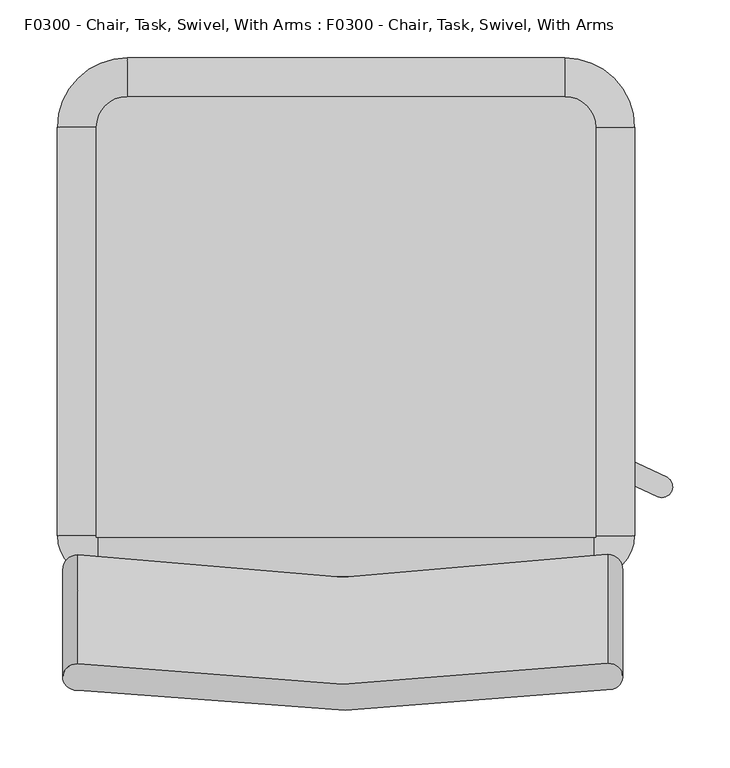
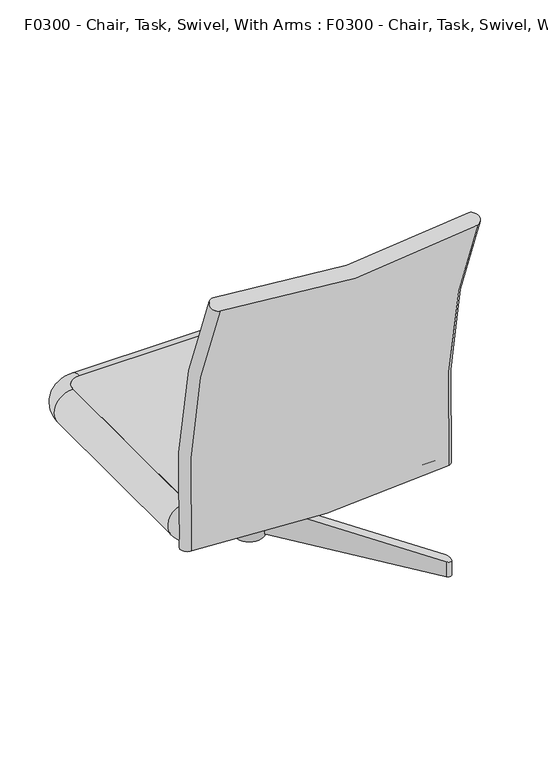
"""IFC4 building model written with IfcOpenShell, lengths in millimetres: proxy geometry, F0300 - Chair, Task, Swivel, With Arms : F0300 - Chair, Task, Swivel, With Arms."""

import ifcopenshell
import ifcopenshell.guid

model = None  # the IFC model being written
_history = None  # IfcOwnerHistory: only IFC2X3 demands one
_inside = {}  # id of a spatial element -> (the spatial element, [elements in it])
_under = {}  # id of a project, library or spatial element -> (it, [spatial elements below it])
_declared = {}  # id of a project -> (the project, [libraries it declares])
_typed = {}  # id of a type object -> (the type object, [elements of that type])
_made_of = {}  # id of a material, layer set ... -> (it, [elements and type objects made of it])


def new_model(schema):
    """Start an empty IFC model of exactly this schema.

    Asked for "IFC4X3", IfcOpenShell would pick the latest addendum, in which some entities
    have other attributes; the version numbers below select the first issue.
    IFC2X3 requires an IfcOwnerHistory on every rooted entity: one is made here for all.
    """
    global model, _history
    if schema == "IFC4X3":
        model = ifcopenshell.file(schema_version=(4, 3, 0, 0))
    else:
        model = ifcopenshell.file(schema=schema)
    _inside.clear()
    _under.clear()
    _declared.clear()
    _typed.clear()
    _made_of.clear()
    _history = None
    if model.schema == "IFC2X3":
        org = make("IfcOrganization", Name="unknown")
        user = make(
            "IfcPersonAndOrganization",
            ThePerson=make("IfcPerson", FamilyName="unknown"),
            TheOrganization=org,
        )
        app = make(
            "IfcApplication",
            ApplicationDeveloper=org,
            Version="unknown",
            ApplicationFullName="unknown",
            ApplicationIdentifier="unknown",
        )
        _history = make(
            "IfcOwnerHistory",
            OwningUser=user,
            OwningApplication=app,
            ChangeAction="ADDED",
            CreationDate=0,
        )
    return model


def make(cls, **values):
    """One entity of the class cls with the attributes given. An attribute that is None is left unset."""
    return model.create_entity(
        cls, **{name: value for name, value in values.items() if value is not None}
    )


def rooted(cls, **values):
    """An entity with a GlobalId (a new one), such as an element, a storey or a relation."""
    return make(cls, GlobalId=ifcopenshell.guid.new(), OwnerHistory=_history, **values)


def si_unit(unit_type, name, prefix=None):
    """IfcSIUnit, for example si_unit("LENGTHUNIT", "METRE", prefix="MILLI")."""
    return make("IfcSIUnit", UnitType=unit_type, Prefix=prefix, Name=name)


def assignment(units):
    """IfcUnitAssignment: the units of a project."""
    return None if units is None else make("IfcUnitAssignment", Units=units)


def point(xyz):
    """IfcCartesianPoint."""
    return None if xyz is None else make("IfcCartesianPoint", Coordinates=xyz)


def direction(xyz):
    """IfcDirection."""
    return None if xyz is None else make("IfcDirection", DirectionRatios=xyz)


def frame(location, z_axis=None, x_axis=None):
    """IfcAxis2Placement3D, a coordinate frame: its origin and axes. An axis left out is left unset."""
    return make(
        "IfcAxis2Placement3D",
        Location=point(location),
        Axis=direction(z_axis),
        RefDirection=direction(x_axis),
    )


def frame_2d(location, x_axis=None):
    """IfcAxis2Placement2D, a coordinate frame in the plane: its origin and x axis."""
    return make(
        "IfcAxis2Placement2D", Location=point(location), RefDirection=direction(x_axis)
    )


def origin():
    """The frame at (0, 0, 0) with its axes left unset."""
    return frame((0.0, 0.0, 0.0))


def origin_2d():
    """The frame at (0, 0) in the plane with its x axis left unset."""
    return frame_2d((0.0, 0.0))


def place(relative_to, where):
    """IfcLocalPlacement: puts the frame where relative to a parent placement (None: the world)."""
    return make(
        "IfcLocalPlacement", PlacementRelTo=relative_to, RelativePlacement=where
    )


def context(
    kind, dimensions, precision=None, world=None, true_north=None, identifier=None
):
    """IfcGeometricRepresentationContext, for example the 3D "Model" context."""
    return make(
        "IfcGeometricRepresentationContext",
        ContextIdentifier=identifier,
        ContextType=kind,
        CoordinateSpaceDimension=dimensions,
        Precision=precision,
        WorldCoordinateSystem=world,
        TrueNorth=true_north,
    )


def project(units=None, contexts=None):
    """IfcProject with its units and contexts."""
    return rooted(
        "IfcProject",
        Name="project",
        RepresentationContexts=contexts,
        UnitsInContext=assignment(units),
    )


def spatial(cls, under=None, at=None, **own):
    """A site, building, storey or space (cls), placed at a placement, below another one or the project."""
    s = rooted(cls, ObjectPlacement=at, **own)
    if under is not None:
        _under.setdefault(under.id(), (under, []))[1].append(s)
    return s


def polyline(points):
    """IfcPolyline through the points."""
    return make("IfcPolyline", Points=[point(p) for p in points])


def circle_curve(where, radius):
    """IfcCircle in the frame where."""
    return make("IfcCircle", Position=where, Radius=radius)


def ellipse_curve(where, semi_axis1, semi_axis2):
    """IfcEllipse in the frame where."""
    return make(
        "IfcEllipse", Position=where, SemiAxis1=semi_axis1, SemiAxis2=semi_axis2
    )


def trimmed(basis, trim1, trim2, sense, master):
    """IfcTrimmedCurve: the piece of a basis curve between two trims."""
    return make(
        "IfcTrimmedCurve",
        BasisCurve=basis,
        Trim1=trim1,
        Trim2=trim2,
        SenseAgreement=sense,
        MasterRepresentation=master,
    )


def segment(curve, same_sense, transition):
    """IfcCompositeCurveSegment."""
    return make(
        "IfcCompositeCurveSegment",
        Transition=transition,
        SameSense=same_sense,
        ParentCurve=curve,
    )


def composite_curve(segments, self_intersect=None):
    """IfcCompositeCurve: segments joined end to end."""
    return make("IfcCompositeCurve", Segments=segments, SelfIntersect=self_intersect)


def outline(outer, holes=None, kind="AREA"):
    """IfcArbitraryClosedProfileDef: a profile drawn as a closed curve; with holes, ...WithVoids."""
    if holes is None:
        return make("IfcArbitraryClosedProfileDef", ProfileType=kind, OuterCurve=outer)
    return make(
        "IfcArbitraryProfileDefWithVoids",
        ProfileType=kind,
        OuterCurve=outer,
        InnerCurves=holes,
    )


def extrude(swept, where, along, depth):
    """IfcExtrudedAreaSolid: the profile swept, set in the frame where, extruded along a direction by depth."""
    return make(
        "IfcExtrudedAreaSolid",
        SweptArea=swept,
        Position=where,
        ExtrudedDirection=direction(along),
        Depth=depth,
    )


def shape(context_of_items, identifier, shape_type, items):
    """IfcShapeRepresentation: the items that make up one representation, for example the "Body"."""
    return make(
        "IfcShapeRepresentation",
        ContextOfItems=context_of_items,
        RepresentationIdentifier=identifier,
        RepresentationType=shape_type,
        Items=items,
    )


def source(mapping_origin, context_of_items, identifier, shape_type, items):
    """IfcRepresentationMap: a shape defined once, which mapped items show again and again."""
    return make(
        "IfcRepresentationMap",
        MappingOrigin=mapping_origin,
        MappedRepresentation=shape(context_of_items, identifier, shape_type, items),
    )


def transform(
    local_origin,
    x_axis=None,
    y_axis=None,
    z_axis=None,
    scale=None,
    scale2=None,
    scale3=None,
    uniform=True,
):
    """IfcCartesianTransformationOperator3D, or its non-uniform kind. x_axis, y_axis, z_axis: its Axis1, 2, 3."""
    if uniform:
        return make(
            "IfcCartesianTransformationOperator3D",
            Axis1=direction(x_axis),
            Axis2=direction(y_axis),
            LocalOrigin=point(local_origin),
            Scale=scale,
            Axis3=direction(z_axis),
        )
    return make(
        "IfcCartesianTransformationOperator3DnonUniform",
        Axis1=direction(x_axis),
        Axis2=direction(y_axis),
        LocalOrigin=point(local_origin),
        Scale=scale,
        Axis3=direction(z_axis),
        Scale2=scale2,
        Scale3=scale3,
    )


def mapped(mapping_source, mapping_target):
    """IfcMappedItem: shows the shape of a source again, moved by a transform."""
    return make(
        "IfcMappedItem", MappingSource=mapping_source, MappingTarget=mapping_target
    )


def made_of(thing, what):
    """Note that an element or type object is made of a material, layer set ...; save() writes the relation."""
    if what is not None:
        _made_of.setdefault(what.id(), (what, []))[1].append(thing)
    return thing


def element(
    cls,
    number,
    at=None,
    inside=None,
    cuts=None,
    type_object=None,
    material=None,
    context=None,
    identifier="Body",
    shape_type=None,
    held_by="IfcProductDefinitionShape",
    body=None,
    shapes=None,
    **own,
):
    """One element of the class cls, such as IfcWall. Its Tag is "e" and its number.

    at: its placement. inside: the storey or other place that contains it. cuts: it is an
    opening in that element (IfcRelVoidsElement). A single representation is given by context,
    identifier, shape_type and body (its items); several are given by shapes. held_by: the class
    of the entity that holds the representations. save() writes the other relations.
    """
    e = rooted(cls, Tag="e%d" % number, ObjectPlacement=at, **own)
    if body is not None:
        shapes = [shape(context, identifier, shape_type, body)]
    if shapes is not None:
        e.Representation = make(held_by, Representations=shapes)
    if inside is not None:
        _inside.setdefault(inside.id(), (inside, []))[1].append(e)
    if cuts is not None:
        rooted(
            "IfcRelVoidsElement", RelatingBuildingElement=cuts, RelatedOpeningElement=e
        )
    if type_object is not None:
        _typed.setdefault(type_object.id(), (type_object, []))[1].append(e)
    return made_of(e, material)


def aggregate(whole, parts):
    """IfcRelAggregates: a whole, such as a stair, and the parts it consists of."""
    return rooted("IfcRelAggregates", RelatingObject=whole, RelatedObjects=parts)


def save(model, path):
    """Write the relations noted so far, then the file.

    IfcRelAggregates (storeys below a building ...), IfcRelContainedInSpatialStructure (elements
    in a storey), IfcRelDefinesByType, IfcRelAssociatesMaterial and IfcRelDeclares: one each for
    every whole, place, type object, material and project.
    """
    for whole, parts in _under.values():
        aggregate(whole, parts)
    for where, things in _inside.values():
        rooted(
            "IfcRelContainedInSpatialStructure",
            RelatedElements=things,
            RelatingStructure=where,
        )
    for kind, things in _typed.values():
        rooted("IfcRelDefinesByType", RelatedObjects=things, RelatingType=kind)
    for what, things in _made_of.values():
        rooted("IfcRelAssociatesMaterial", RelatedObjects=things, RelatingMaterial=what)
    for by, libraries in _declared.values():
        rooted("IfcRelDeclares", RelatingContext=by, RelatedDefinitions=libraries)
    model.write(path)


def plane_surface(at):
    """IfcPlane: the flat surface through the origin of the frame at, square to its z axis."""
    return make("IfcPlane", Position=at)


def cylinder_surface(at, radius):
    """IfcCylindricalSurface: all points at the distance radius from the z axis of the frame at."""
    return make("IfcCylindricalSurface", Position=at, Radius=radius)


def revolved_surface(curve, axis_point, axis_direction):
    """IfcSurfaceOfRevolution: the curve turned about the line through axis_point along axis_direction."""
    return make(
        "IfcSurfaceOfRevolution",
        SweptCurve=make("IfcArbitraryOpenProfileDef", ProfileType="CURVE", Curve=curve),
        AxisPosition=make("IfcAxis1Placement", Location=point(axis_point), Axis=direction(axis_direction)),
    )


def advanced_brep(points, edges, surfaces, faces):
    """IfcAdvancedBrep: a solid bounded by faces that lie on surfaces and meet in shared edges.

    An edge is (start, end): straight between two places in points (the first is 0);
    or (start, end, curve); or (start, end, curve, False) where it runs against its curve.
    A face is (place in surfaces, loops), or (place, loops, False) where it looks against
    its surface's normal. A loop lists edges by number (the first is 1), with a minus sign
    where the edge is run from its end to its start. The first loop is the outer one.
    """
    corners = [point(p) for p in points]
    vertices = [make("IfcVertexPoint", VertexGeometry=c) for c in corners]
    made = []
    for start, end, *more in edges:
        made.append(
            make(
                "IfcEdgeCurve",
                EdgeStart=vertices[start],
                EdgeEnd=vertices[end],
                EdgeGeometry=more[0] if more else make("IfcPolyline", Points=[corners[start], corners[end]]),
                SameSense=more[1] if len(more) > 1 else True,
            )
        )
    hull = []
    for where, loops, *sense in faces:
        bounds = []
        for j, loop in enumerate(loops):
            ring = [make("IfcOrientedEdge", EdgeElement=made[abs(k) - 1], Orientation=k > 0) for k in loop]
            bounds.append(
                make(
                    "IfcFaceOuterBound" if j == 0 else "IfcFaceBound",
                    Bound=make("IfcEdgeLoop", EdgeList=ring),
                    Orientation=True,
                )
            )
        hull.append(make("IfcAdvancedFace", Bounds=bounds, FaceSurface=surfaces[where], SameSense=sense[0] if sense else True))
    return make("IfcAdvancedBrep", Outer=make("IfcClosedShell", CfsFaces=hull))


def f0300_chair_task_swivel_with_arms_f0300_chair_task_swivel_548d2802(model_context):
    return source(origin(), model_context, "Body", "SolidModel", [
        advanced_brep(
        [(20.5891067, 0.9088165, 158.3164474), (12.606954, -16.2089653, 158.3164474), (12.606954, -16.2089653, 212.7487443), (20.5891067, 0.9088165, 212.7487443), (283.7284885, -121.7950923, 86.0096871), (283.7284885, -121.7950923, 57.6571213), (275.3053581, -138.7072429, 86.2220806), (287.501904, -133.9556376, 82.2734822), (275.3053581, -138.7072429, 57.8258095), (287.501904, -133.9556376, 54.689734)],
        [
            (0, 1),
            (1, 2),
            (2, 3),
            (3, 0),
            (3, 4),
            (4, 5),
            (5, 0),
            (2, 6),
            (6, 7, ellipse_curve(frame((278.918781, -129.9532617, 86.4074773), z_axis=(0.3625792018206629, -0.16907345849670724, 0.9164881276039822), x_axis=(0.8306203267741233, -0.3873246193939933, -0.40006188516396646)), 10.333389, 9.4704283)),
            (7, 4, ellipse_curve(frame((278.918781, -129.9532617, 86.4074773), z_axis=(0.3625792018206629, -0.16907345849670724, 0.9164881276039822), x_axis=(0.8306203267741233, -0.3873246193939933, -0.40006188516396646)), 10.333389, 9.4704283)),
            (1, 8),
            (8, 6),
            (5, 9, ellipse_curve(frame((278.918781, -129.9532617, 57.9730562), z_axis=(-0.2968743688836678, 0.13843479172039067, -0.9448287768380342), x_axis=(0.8563056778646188, -0.3993018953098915, -0.3275646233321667)), 10.0234334, 9.4704283)),
            (9, 8, ellipse_curve(frame((278.918781, -129.9532617, 57.9730562), z_axis=(-0.2968743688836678, 0.13843479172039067, -0.9448287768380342), x_axis=(0.8563056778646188, -0.3993018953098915, -0.3275646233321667)), 10.0234334, 9.4704283)),
            (9, 7),
        ],
        [
            plane_surface(frame((16.5980304, -7.6500744, 185.5325958), z_axis=(-0.9063077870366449, 0.42261826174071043, 0.0), x_axis=(-0.42261826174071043, -0.9063077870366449, 0.0))),
            plane_surface(frame((20.5891067, 0.9088165, 185.5325958), z_axis=(0.4226182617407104, 0.9063077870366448, 0.0), x_axis=(0.0, 0.0, 1.0))),
            plane_surface(frame((16.5980304, -7.6500744, 212.7487443), z_axis=(0.36257920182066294, -0.16907345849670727, 0.9164881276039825), x_axis=(-0.42261826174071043, -0.9063077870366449, 0.0))),
            plane_surface(frame((12.606954, -16.2089653, 185.5325958), z_axis=(-0.4226182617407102, -0.906307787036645, 0.0), x_axis=(0.0, 0.0, -1.0))),
            plane_surface(frame((16.5980304, -7.6500744, 158.3164474), z_axis=(-0.29687436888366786, 0.1384347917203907, -0.9448287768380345), x_axis=(0.42261826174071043, 0.9063077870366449, 0.0))),
            cylinder_surface(frame((278.918781, -129.9532617, 0.0), z_axis=(0.0, 0.0, -1.0000000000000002), x_axis=(-0.9063077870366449, 0.42261826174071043, 0.0)), 9.4704283),
        ],
        [
            (0, [[1, 2, 3, 4]]),
            (1, [[-4, 5, 6, 7]]),
            (2, [[-3, 8, 9, 10, -5]]),
            (3, [[-2, 11, 12, -8]]),
            (4, [[-1, -7, 13, 14, -11]]),
            (5, [[15, -9, -12, -14]]),
            (5, [[-15, -13, -6, -10]]),
        ],
    ),
        extrude(outline(composite_curve([segment(trimmed(circle_curve(frame_2d((-0.4565328, 0.2009494)), 25.4), [point((24.9434672, 0.2009494))], [point((-25.8565328, 0.2009494))], False, "CARTESIAN"), True, "CONTINUOUS"), segment(trimmed(circle_curve(frame_2d((-0.4565328, 0.2009494)), 25.4), [point((-25.8565328, 0.2009494))], [point((24.9434672, 0.2009494))], False, "CARTESIAN"), True, "CONTINUOUS")], self_intersect=False)), frame((0.0, 0.0, 154.0271692), z_axis=(0.0, 0.0, 1.0), x_axis=(1.0, 0.0, 0.0)), (0.0, 0.0, 1.0), 58.7215752),
        advanced_brep(
        [(-229.5082147, -191.2947504, 328.6387079), (232.0214447, -190.8605661, 328.5937403), (236.3508412, -215.7557493, 331.1720849), (-229.5082147, -216.926585, 331.293346), (-229.5082147, -284.2177228, 855.6310718), (-229.5082147, -307.3958289, 844.3699241), (236.3508412, -306.337077, 844.8843217), (232.0214447, -283.8251028, 855.8218273)],
        [
            (0, 1, circle_curve(frame((0.0, 1130.5045098, 191.7425871), z_axis=(0.0, 0.10301698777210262, 0.9946795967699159), x_axis=(-1.0, 0.0, 0.0)), 1348.5428628)),
            (1, 2, circle_curve(frame((232.0214447, -203.6806144, 329.9214872), z_axis=(0.0, -0.10301698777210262, -0.9946795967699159), x_axis=(-1.0, 0.0, 0.0)), 12.888621)),
            (2, 3, circle_curve(frame((0.0, 1130.5045098, 191.7425871), z_axis=(0.0, -0.10301698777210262, -0.9946795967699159), x_axis=(-1.0, 0.0, 0.0)), 1373.9428628)),
            (3, 0, circle_curve(frame((-229.5082147, -204.1106677, 329.9660269), z_axis=(0.0, -0.10301698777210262, -0.9946795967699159), x_axis=(-1.0, 0.0, 0.0)), 12.8844679)),
            (4, 5, circle_curve(frame((-229.5082147, -295.8067759, 850.0004979), z_axis=(0.0, -0.4370047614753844, 0.8994591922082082), x_axis=(-1.0, 0.0, 0.0)), 12.8844679)),
            (5, 6, circle_curve(frame((0.0, 911.0460573, 1436.3533187), z_axis=(0.0, -0.4370047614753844, 0.8994591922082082), x_axis=(-1.0, 0.0, 0.0)), 1373.9428628)),
            (6, 7, circle_curve(frame((232.0214447, -295.4178914, 850.1894385), z_axis=(0.0, -0.4370047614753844, 0.8994591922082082), x_axis=(-1.0, 0.0, 0.0)), 12.888621)),
            (7, 4, circle_curve(frame((0.0, 911.0460573, 1436.3533187), z_axis=(0.0, 0.4370047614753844, -0.8994591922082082), x_axis=(-1.0, 0.0, 0.0)), 1348.5428628)),
            (7, 1, circle_curve(frame((232.0214447, -1161.9751957, 429.1701512), z_axis=(-1.0, 0.0, 0.0), x_axis=(0.0, 0.9946795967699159, -0.10301698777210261)), 976.308987)),
            (0, 4, circle_curve(frame((-229.5082147, -1161.9751957, 429.1701512), z_axis=(1.0, 0.0, 0.0), x_axis=(0.0, 0.9946795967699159, -0.10301698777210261)), 975.8724803)),
            (6, 2, circle_curve(frame((236.3508412, -1161.9751957, 429.1701512), z_axis=(-1.0, 0.0, 0.0), x_axis=(0.0, 0.9946795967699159, -0.10301698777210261)), 951.280643)),
            (5, 3, circle_curve(frame((-229.5082147, -1161.9751957, 429.1701512), z_axis=(-1.0, 0.0, 0.0), x_axis=(0.0, 0.9946795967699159, -0.10301698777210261)), 950.1035446)),
        ],
        [
            plane_surface(frame((-317.5, -173.1564347, 326.7601586), z_axis=(0.0, -0.10301698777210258, -0.994679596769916), x_axis=(-1.0, 0.0, 0.0))),
            plane_surface(frame((-317.5, -267.815783, 863.6), z_axis=(0.0, -0.4370047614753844, 0.8994591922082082), x_axis=(-1.0, 0.0, 0.0))),
            revolved_surface(trimmed(ellipse_curve(frame((0.0, 1130.5045098, 191.7425871), z_axis=(0.0, 0.10301698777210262, 0.9946795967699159), x_axis=(-1.0, 0.0, 0.0)), 1348.5428628, 1348.5428628), [point((-229.5082147, -191.2947504, 328.6387079))], [point((232.0214447, -190.8605661, 328.5937403))], True, "CARTESIAN"), (-317.5, -1161.9751957, 429.1701512), (1.0, 0.0, 0.0)),
            revolved_surface(trimmed(ellipse_curve(frame((232.0214447, -203.6806144, 329.9214872), z_axis=(0.0, -0.10301698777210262, -0.9946795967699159), x_axis=(-1.0, 0.0, 0.0)), 12.888621, 12.888621), [point((232.0214447, -190.8605661, 328.5937403))], [point((236.3508412, -215.7557493, 331.1720849))], True, "CARTESIAN"), (-317.5, -1161.9751957, 429.1701512), (1.0, 0.0, 0.0)),
            revolved_surface(trimmed(ellipse_curve(frame((0.0, 1130.5045098, 191.7425871), z_axis=(0.0, -0.10301698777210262, -0.9946795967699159), x_axis=(-1.0, 0.0, 0.0)), 1373.9428628, 1373.9428628), [point((236.3508412, -215.7557493, 331.1720849))], [point((-229.5082147, -216.926585, 331.293346))], True, "CARTESIAN"), (-317.5, -1161.9751957, 429.1701512), (1.0, 0.0, 0.0)),
            revolved_surface(trimmed(ellipse_curve(frame((-229.5082147, -204.1106677, 329.9660269), z_axis=(0.0, -0.10301698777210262, -0.9946795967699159), x_axis=(-1.0, 0.0, 0.0)), 12.8844679, 12.8844679), [point((-229.5082147, -216.926585, 331.293346))], [point((-229.5082147, -191.2947504, 328.6387079))], True, "CARTESIAN"), (-317.5, -1161.9751957, 429.1701512), (1.0, 0.0, 0.0)),
        ],
        [
            (0, [[1, 2, 3, 4]]),
            (1, [[5, 6, 7, 8]]),
            (2, [[9, -1, 10, -8]]),
            (3, [[11, -2, -9, -7]]),
            (4, [[12, -3, -11, -6]]),
            (5, [[-10, -4, -12, -5]]),
        ],
    ),
        extrude(outline(composite_curve([segment(polyline([(-213.079753, -174.0379297), (-213.079753, 182.9075832)]), True, "CONTINUOUS"), segment(trimmed(circle_curve(frame_2d((-186.3342402, 182.9075832)), 26.7455128), [point((-213.079753, 182.9075832))], [point((-186.3342402, 209.653096))], False, "CARTESIAN"), True, "CONTINUOUS"), segment(polyline([(-186.3342402, 209.653096), (194.6657598, 209.653096)]), True, "CONTINUOUS"), segment(trimmed(circle_curve(frame_2d((194.6657598, 182.9075832)), 26.7455128), [point((194.6657598, 209.653096))], [point((221.4112726, 182.9075832))], False, "CARTESIAN"), True, "CONTINUOUS"), segment(polyline([(221.4112726, 182.9075832), (221.4112726, -174.0379297), (-213.079753, -174.0379297)]), True, "CONTINUOUS")], self_intersect=False)), frame((0.0, 0.0, 324.0440254), z_axis=(0.0, 0.0, 1.0), x_axis=(1.0, 0.0, 0.0)), (0.0, 0.0, 1.0), 67.8491407),
        advanced_brep(
        [(-213.079753, -172.6924168, 391.8931661), (-211.7342402, -174.0379297, 391.8931661), (-211.7342402, -174.0379297, 324.0440254), (-213.079753, -172.6924168, 324.0440254), (-213.079753, 182.9075832, 324.0440254), (-213.079753, 182.9075832, 391.8931661), (-186.3342402, 209.653096, 391.8931661), (-186.3342402, 209.653096, 324.0440254), (194.6657598, 209.653096, 324.0440254), (194.6657598, 209.653096, 391.8931661), (221.4112726, 182.9075832, 391.8931661), (221.4112726, 182.9075832, 324.0440254), (221.4112726, -172.6924168, 324.0440254), (221.4112726, -172.6924168, 391.8931661), (220.0657598, -174.0379297, 391.8931661), (220.0657598, -174.0379297, 324.0440254)],
        [
            (0, 1, circle_curve(frame((-211.7342402, -172.6924168, 391.8931661), z_axis=(0.0, 0.0, 1.0), x_axis=(0.0, -1.0, 0.0)), 1.3455128)),
            (1, 2),
            (2, 3, circle_curve(frame((-211.7342402, -172.6924168, 324.0440254), z_axis=(0.0, 0.0, -1.0), x_axis=(0.0, -1.0, 0.0)), 1.3455128)),
            (3, 0),
            (2, 1, circle_curve(frame((-211.7342402, -174.0379297, 357.9685958), z_axis=(-1.0, 0.0, 0.0), x_axis=(0.0, 1.0, 0.0)), 33.9245703)),
            (0, 3, circle_curve(frame((-213.079753, -172.6924168, 357.9685958), z_axis=(0.0, -1.0, 0.0), x_axis=(1.0, 0.0, 0.0)), 33.9245703)),
            (3, 4),
            (4, 5),
            (5, 0),
            (5, 4, circle_curve(frame((-213.079753, 182.9075832, 357.9685958), z_axis=(0.0, -1.0, 0.0), x_axis=(1.0, 0.0, 0.0)), 33.9245703)),
            (6, 5, circle_curve(frame((-186.3342402, 182.9075832, 391.8931661), z_axis=(0.0, 0.0, 1.0), x_axis=(-1.0, 0.0, 0.0)), 26.7455128)),
            (4, 7, circle_curve(frame((-186.3342402, 182.9075832, 324.0440254), z_axis=(0.0, 0.0, -1.0), x_axis=(-1.0, 0.0, 0.0)), 26.7455128)),
            (7, 6),
            (6, 7, circle_curve(frame((-186.3342402, 209.653096, 357.9685958), z_axis=(-1.0, 0.0, 0.0), x_axis=(0.0, -1.0, 0.0)), 33.9245703)),
            (7, 8),
            (8, 9),
            (9, 6),
            (9, 8, circle_curve(frame((194.6657598, 209.653096, 357.9685958), z_axis=(-1.0, 0.0, 0.0), x_axis=(0.0, -1.0, 0.0)), 33.9245703)),
            (10, 9, circle_curve(frame((194.6657598, 182.9075832, 391.8931661), z_axis=(0.0, 0.0, 1.0), x_axis=(0.0, 1.0, 0.0)), 26.7455128)),
            (8, 11, circle_curve(frame((194.6657598, 182.9075832, 324.0440254), z_axis=(0.0, 0.0, -1.0), x_axis=(0.0, 1.0, 0.0)), 26.7455128)),
            (11, 10),
            (10, 11, circle_curve(frame((221.4112726, 182.9075832, 357.9685958), z_axis=(0.0, 1.0, 0.0), x_axis=(-1.0, 0.0, 0.0)), 33.9245703)),
            (11, 12),
            (12, 13),
            (13, 10),
            (13, 12, circle_curve(frame((221.4112726, -172.6924168, 357.9685958), z_axis=(0.0, 1.0, 0.0), x_axis=(-1.0, 0.0, 0.0)), 33.9245703)),
            (14, 13, circle_curve(frame((220.0657598, -172.6924168, 391.8931661), z_axis=(0.0, 0.0, 1.0), x_axis=(1.0, 0.0, 0.0)), 1.3455128)),
            (12, 15, circle_curve(frame((220.0657598, -172.6924168, 324.0440254), z_axis=(0.0, 0.0, -1.0), x_axis=(1.0, 0.0, 0.0)), 1.3455128)),
            (15, 14),
            (14, 15, circle_curve(frame((220.0657598, -174.0379297, 357.9685958), z_axis=(1.0, 0.0, 0.0), x_axis=(0.0, 1.0, 0.0)), 33.9245703)),
            (15, 2),
            (1, 14),
        ],
        [
            revolved_surface(polyline([(-211.7342402, -174.03792959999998, 324.0440254), (-211.7342402, -174.03792959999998, 391.8931661)]), (-211.7342402, -172.6924168, 0.0), (0.0, 0.0, -1.0)),
            revolved_surface(trimmed(ellipse_curve(frame((-211.7342402, -174.0379297, 357.9685958), z_axis=(1.0, 0.0, 0.0), x_axis=(0.0, 1.0, 0.0)), 33.9245703, 33.9245703), [point((-211.7342402, -174.0379297, 391.8931661))], [point((-211.7342402, -174.0379297, 324.0440254))], True, "CARTESIAN"), (-211.7342402, -172.6924168, 0.0), (0.0, 0.0, -1.0)),
            plane_surface(frame((-213.079753, -172.6924168, 324.0440254), z_axis=(1.0, 0.0, 0.0), x_axis=(0.0, 1.0, 0.0))),
            cylinder_surface(frame((-213.079753, -172.6924168, 357.9685958), z_axis=(0.0, -1.0, 0.0), x_axis=(1.0, 0.0, 0.0)), 33.9245703),
            revolved_surface(polyline([(-213.079753, 182.9075832, 324.0440254), (-213.079753, 182.9075832, 391.8931661)]), (-186.3342402, 182.9075832, 0.0), (0.0, 0.0, -1.0)),
            revolved_surface(trimmed(ellipse_curve(frame((-213.079753, 182.9075832, 357.9685958), z_axis=(0.0, -1.0, 0.0), x_axis=(1.0, 0.0, 0.0)), 33.9245703, 33.9245703), [point((-213.079753, 182.9075832, 391.8931661))], [point((-213.079753, 182.9075832, 324.0440254))], True, "CARTESIAN"), (-186.3342402, 182.9075832, 0.0), (0.0, 0.0, -1.0)),
            plane_surface(frame((-186.3342402, 209.653096, 324.0440254), z_axis=(0.0, -1.0, 0.0), x_axis=(1.0, 0.0, 0.0))),
            cylinder_surface(frame((-186.3342402, 209.653096, 357.9685958), z_axis=(-1.0, 0.0, 0.0), x_axis=(0.0, -1.0, 0.0)), 33.9245703),
            revolved_surface(polyline([(194.6657598, 209.653096, 324.0440254), (194.6657598, 209.653096, 391.8931661)]), (194.6657598, 182.9075832, 0.0), (0.0, 0.0, -1.0)),
            revolved_surface(trimmed(ellipse_curve(frame((194.6657598, 209.653096, 357.9685958), z_axis=(-1.0, 0.0, 0.0), x_axis=(0.0, -1.0, 0.0)), 33.9245703, 33.9245703), [point((194.6657598, 209.653096, 391.8931661))], [point((194.6657598, 209.653096, 324.0440254))], True, "CARTESIAN"), (194.6657598, 182.9075832, 0.0), (0.0, 0.0, -1.0)),
            plane_surface(frame((221.4112726, 182.9075832, 324.0440254), z_axis=(-1.0, 0.0, 0.0), x_axis=(0.0, -1.0, 0.0))),
            cylinder_surface(frame((221.4112726, 182.9075832, 357.9685958), z_axis=(0.0, 1.0, 0.0), x_axis=(-1.0, 0.0, 0.0)), 33.9245703),
            revolved_surface(polyline([(221.4112726, -172.6924168, 324.0440254), (221.4112726, -172.6924168, 391.8931661)]), (220.0657598, -172.6924168, 0.0), (0.0, 0.0, -1.0)),
            revolved_surface(trimmed(ellipse_curve(frame((221.4112726, -172.6924168, 357.9685958), z_axis=(0.0, 1.0, 0.0), x_axis=(-1.0, 0.0, 0.0)), 33.9245703, 33.9245703), [point((221.4112726, -172.6924168, 391.8931661))], [point((221.4112726, -172.6924168, 324.0440254))], True, "CARTESIAN"), (220.0657598, -172.6924168, 0.0), (0.0, 0.0, -1.0)),
            plane_surface(frame((220.0657598, -174.0379297, 324.0440254), z_axis=(0.0, 1.0, 0.0), x_axis=(-1.0, 0.0, 0.0))),
            cylinder_surface(frame((220.0657598, -174.0379297, 357.9685958), z_axis=(1.0, 0.0, 0.0), x_axis=(0.0, 1.0, 0.0)), 33.9245703),
        ],
        [
            (0, [[1, 2, 3, 4]]),
            (1, [[-3, 5, -1, 6]]),
            (2, [[-4, 7, 8, 9]]),
            (3, [[-6, -9, 10, -7]]),
            (4, [[11, -8, 12, 13]]),
            (5, [[-12, -10, -11, 14]]),
            (6, [[-13, 15, 16, 17]]),
            (7, [[-14, -17, 18, -15]]),
            (8, [[19, -16, 20, 21]]),
            (9, [[-20, -18, -19, 22]]),
            (10, [[-21, 23, 24, 25]]),
            (11, [[-22, -25, 26, -23]]),
            (12, [[27, -24, 28, 29]]),
            (13, [[-28, -26, -27, 30]]),
            (14, [[-29, 31, -2, 32]]),
            (15, [[-30, -32, -5, -31]]),
        ],
    ),
        extrude(outline(composite_curve([segment(trimmed(circle_curve(origin_2d(), 12.7), [point((12.7, 0.0))], [point((-12.7, 0.0))], False, "CARTESIAN"), True, "CONTINUOUS"), segment(trimmed(circle_curve(origin_2d(), 12.7), [point((-12.7, 0.0))], [point((12.7, 0.0))], False, "CARTESIAN"), True, "CONTINUOUS")], self_intersect=False)), frame((0.0, 0.0, 212.7487443), z_axis=(0.0, 0.0, 1.0), x_axis=(1.0, 0.0, 0.0)), (0.0, 0.0, 1.0), 66.217703),
    ])


if __name__ == "__main__":
    model = new_model("IFC4")
    model_context = context("Model", 3, world=origin())
    ifc_project = project(units=[si_unit("LENGTHUNIT", "METRE", prefix="MILLI")], contexts=[model_context])
    site = spatial("IfcSite", under=ifc_project)
    building = spatial("IfcBuilding", under=site)
    placement = place(None, origin())
    f0300_chair_task_swivel_with_arms_f0300_chair_task_swivel_shape = f0300_chair_task_swivel_with_arms_f0300_chair_task_swivel_548d2802(model_context)
    element("IfcBuildingElementProxy", 1, Name="F0300 - Chair, Task, Swivel, With Arms : F0300 - Chair, Task, Swivel, With Arms", ObjectType="F0300 - Chair, Task, Swivel, With Arms : F0300 - Chair, Task, Swivel, With Arms", at=placement, inside=building, context=model_context, shape_type="MappedRepresentation", body=[
        mapped(f0300_chair_task_swivel_with_arms_f0300_chair_task_swivel_shape, transform((0.0, 0.0, 0.0), x_axis=(1.0, 0.0, 0.0), y_axis=(0.0, 1.0, 0.0), z_axis=(0.0, 0.0, 1.0))),
    ])
    save(model, "model.ifc")
